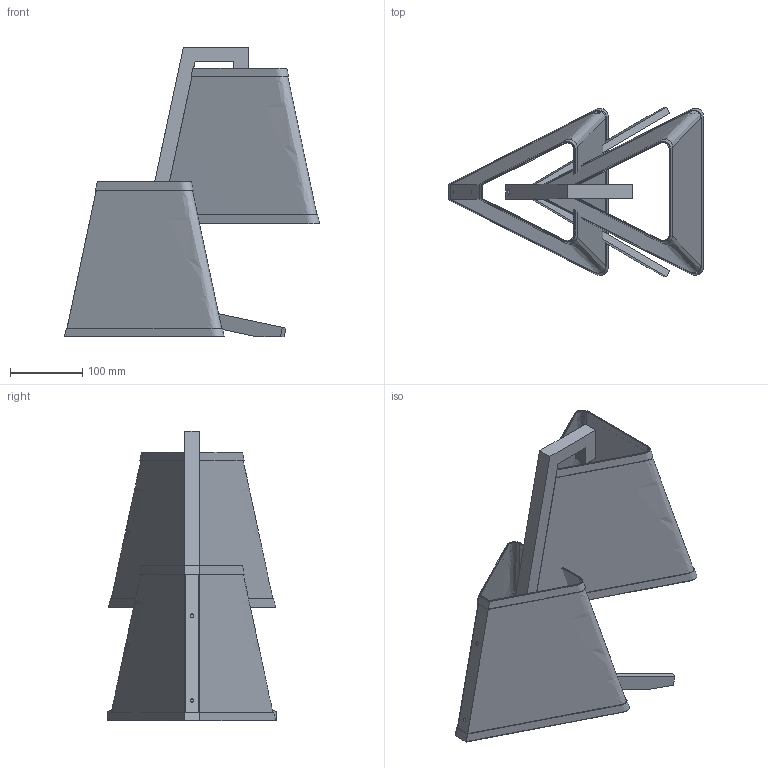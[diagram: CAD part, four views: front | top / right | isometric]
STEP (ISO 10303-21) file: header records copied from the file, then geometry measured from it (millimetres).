
FILE_DESCRIPTION( ( 'STEP AP203' ), '1' );
FILE_NAME( '//srvbf/BF Disegni/LAMPADA ODEON/ODEON-L Lumetto 3D.stp', '2020-10-16T07:56:41', ( ' ' ), ( ' ' ), 'XStep 1.0', ' ', ' ' );
FILE_SCHEMA( ( 'CONFIG_CONTROL_DESIGN) ( )' ) );
Length unit declared in the file: metre
Products named in the file (5): Assem1; 1; 2; 3; 4
Bounding box: 352.95 x 235 x 401 mm (x, y, z)
Volume: 863285.9 mm3; surface area: 702127.6 mm2
Topology: 8 solids, 8 shells, 120 faces, 302 edges, 208 vertices
Faces by surface type: plane 84, cylinder 12, offset 12, bspline 12
Full cylindrical faces by diameter (mm): 3.242 x4, 5 x4, 8.917 x4
Entity records: 7148 total; most frequent: CARTESIAN_POINT 5559, ORIENTED_EDGE 286, DIRECTION 231, EDGE_CURVE 143, VERTEX_POINT 102, LINE 101, VECTOR 101, EDGE_LOOP 81
